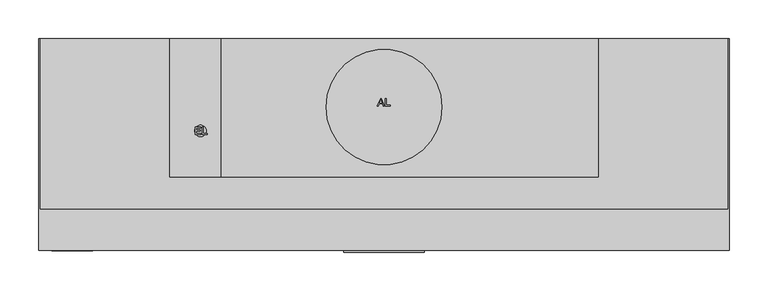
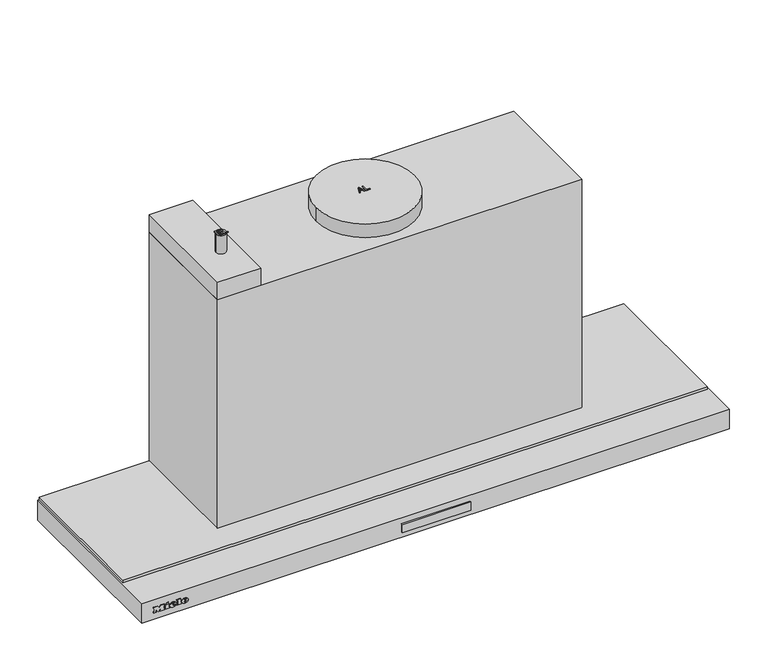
"""IFC4 building model written with IfcOpenShell, lengths in millimetres: proxy geometry, 12400950_D_DAS2922_EDST : 28S2922S_D_12400950_DAS2922_EDST."""

from ifc_helpers import new_model, si_unit, point, frame, frame_2d, origin, origin_with_axes, place, context, project, spatial, polyline, circle_curve, ellipse_curve, trimmed, segment, composite_curve, outline, extrude, faceted_brep, source, transform, mapped, element, save
from ifc_brep_helpers import plane_surface, cylinder_surface, revolved_surface, extruded_surface, advanced_brep


def specialty_equipment_2c4c37f5(model_context):
    return source(origin(), model_context, "Body", "SolidModel", [
        extrude(outline(polyline([(52.0, -275.0), (52.0, -277.3978707), (-52.0, -277.3978707), (-52.0, -275.0), (52.0, -275.0)])), frame((0.0, 0.0, -23.0389651), z_axis=(0.0, 0.0, 1.0), x_axis=(1.0, 0.0, 0.0)), (0.0, 0.0, 1.0), 13.3389155),
        advanced_brep(
        [(-383.4590019, -276.0, -18.7681017), (-383.4590019, -276.0, -17.8894017), (-377.6387019, -276.0, -17.8894017), (-387.7655019, -276.0, -17.8894017), (-385.3730019, -276.0, -20.8300017), (-377.7866019, -276.0, -18.7681017), (-380.4140019, -276.0, -18.7681017), (-382.4846019, -276.0, -19.7425017), (-383.4590019, -276.0, -16.7758017), (-383.4590019, -276.0, -15.8275017), (-381.9713019, -276.0, -15.8275017), (-381.9713019, -276.0, -16.7758017), (-383.4590019, -275.0, -18.7681017), (-382.4846019, -275.0, -19.7425017), (-380.4140019, -275.0, -18.7681017), (-377.7866019, -275.0, -18.7681017), (-385.3730019, -275.0, -20.8300017), (-387.7655019, -275.0, -17.8894017), (-377.6387019, -275.0, -17.8894017), (-383.4590019, -275.0, -17.8894017), (-383.4590019, -275.0, -16.7758017), (-381.9713019, -275.0, -16.7758017), (-381.9713019, -275.0, -15.8275017), (-383.4590019, -275.0, -15.8275017)],
        [
            (0, 1),
            (1, 2),
            (2, 3, ellipse_curve(frame((-382.7021019, -276.0, -17.8894017), z_axis=(0.0, -1.0, 0.0), x_axis=(-1.0, 0.0, 0.0)), 5.0634, 4.1847)),
            (3, 4, circle_curve(frame((-384.3985544, -276.0, -17.5936017), z_axis=(0.0, -1.0, 0.0), x_axis=(0.0, 0.0, -1.0)), 3.3799161)),
            (4, 5, circle_curve(frame((-382.8034638, -276.0, -15.2968017), z_axis=(0.0, -1.0, 0.0), x_axis=(0.0, 0.0, -1.0)), 6.1007236)),
            (5, 6),
            (6, 7, circle_curve(frame((-382.0593254, -276.0, -17.9590017), z_axis=(0.0, 1.0, 0.0), x_axis=(0.0, 0.0, -1.0)), 1.8335027)),
            (7, 0, circle_curve(frame((-382.4846019, -276.0, -18.7681017), z_axis=(0.0, 1.0, 0.0), x_axis=(0.0, 0.0, -1.0)), 0.9744)),
            (8, 9),
            (9, 10, circle_curve(frame((-382.7151519, -276.0, -15.8275017), z_axis=(0.0, 1.0, 0.0), x_axis=(0.0, 0.0, -1.0)), 0.74385)),
            (10, 11),
            (11, 8),
            (12, 13, circle_curve(frame((-382.4846019, -275.0, -18.7681017), z_axis=(0.0, -1.0, 0.0), x_axis=(0.0, 0.0, -1.0)), 0.9744)),
            (13, 14, circle_curve(frame((-382.0593254, -275.0, -17.9590017), z_axis=(0.0, -1.0, 0.0), x_axis=(0.0, 0.0, -1.0)), 1.8335027)),
            (14, 15),
            (15, 16, circle_curve(frame((-382.8034638, -275.0, -15.2968017), z_axis=(0.0, 1.0, 0.0), x_axis=(0.0, 0.0, -1.0)), 6.1007236)),
            (16, 17, circle_curve(frame((-384.3985544, -275.0, -17.5936017), z_axis=(0.0, 1.0, 0.0), x_axis=(0.0, 0.0, -1.0)), 3.3799161)),
            (17, 18, ellipse_curve(frame((-382.7021019, -275.0, -17.8894017), z_axis=(0.0, 1.0, 0.0), x_axis=(-1.0, 0.0, 0.0)), 5.0634, 4.1847)),
            (18, 19),
            (19, 12),
            (20, 21),
            (21, 22),
            (22, 23, circle_curve(frame((-382.7151519, -275.0, -15.8275017), z_axis=(0.0, -1.0, 0.0), x_axis=(0.0, 0.0, -1.0)), 0.74385)),
            (23, 20),
            (0, 12),
            (19, 1),
            (18, 2),
            (5, 15),
            (14, 6),
            (17, 3),
            (13, 7),
            (16, 4),
            (8, 20),
            (23, 9),
            (22, 10),
            (21, 11),
        ],
        [
            plane_surface(frame((-383.4590019, -276.0, -17.8894017), z_axis=(0.0, -1.0, 0.0), x_axis=(0.0, 0.0, 1.0))),
            plane_surface(frame((-383.4590019, -275.0, -17.8894017), z_axis=(0.0, 1.0, 0.0), x_axis=(0.0, 0.0, -1.0))),
            plane_surface(frame((-383.4590019, -276.0, -18.7681017), z_axis=(1.0, 0.0, 0.0), x_axis=(0.0, 1.0, 0.0))),
            plane_surface(frame((-383.4590019, -276.0, -17.8894017), z_axis=(0.0, 0.0, -1.0), x_axis=(0.0, 1.0, 0.0))),
            plane_surface(frame((-377.7866019, -276.0, -18.7681017), z_axis=(0.0, 0.0, 1.0), x_axis=(0.0, 1.0, 0.0))),
            extruded_surface(trimmed(ellipse_curve(frame((-382.7021019, -274.0, -17.8894017), z_axis=(0.0, -1.0, 0.0), x_axis=(-1.0, 0.0, 0.0)), 5.0634, 4.1847), [point((-377.6387019, -274.0, -17.8894017))], [point((-387.7655019, -274.0, -17.8894017))], True, "CARTESIAN"), (0.0, -1.0, 0.0), 1.0),
            revolved_surface(polyline([(-382.0593254, -275.0, -19.792504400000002), (-382.0593254, -276.0, -19.792504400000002)]), (-382.0593254, -275.0, -17.9590017), (0.0, 1.0, 0.0)),
            revolved_surface(polyline([(-382.4846019, -275.0, -19.7425017), (-382.4846019, -276.0, -19.7425017)]), (-382.4846019, -275.0, -18.7681017), (0.0, 1.0, 0.0)),
            cylinder_surface(frame((-384.3985544, -275.0, -17.5936017), z_axis=(0.0, -1.0, 0.0), x_axis=(0.0, 0.0, -1.0)), 3.3799161),
            cylinder_surface(frame((-382.8034638, -275.0, -15.2968017), z_axis=(0.0, -1.0, 0.0), x_axis=(0.0, 0.0, -1.0)), 6.1007236),
            plane_surface(frame((-383.4590019, -276.0, -16.7758017), z_axis=(1.0, 0.0, 0.0), x_axis=(0.0, 1.0, 0.0))),
            revolved_surface(polyline([(-382.7151519, -275.0, -16.571351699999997), (-382.7151519, -276.0, -16.571351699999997)]), (-382.7151519, -275.0, -15.8275017), (0.0, 1.0, 0.0)),
            plane_surface(frame((-381.9713019, -276.0, -15.8275017), z_axis=(-1.0, 0.0, 0.0), x_axis=(0.0, 1.0, 0.0))),
            plane_surface(frame((-381.9713019, -276.0, -16.7758017), z_axis=(0.0, 0.0, 1.0), x_axis=(0.0, 1.0, 0.0))),
        ],
        [
            (0, [[1, 2, 3, 4, 5, 6, 7, 8], [9, 10, 11, 12]]),
            (1, [[13, 14, 15, 16, 17, 18, 19, 20], [21, 22, 23, 24]]),
            (2, [[-1, 25, -20, 26]]),
            (3, [[-2, -26, -19, 27]]),
            (4, [[-6, 28, -15, 29]]),
            (5, [[-3, -27, -18, 30]]),
            (6, [[-7, -29, -14, 31]]),
            (7, [[-8, -31, -13, -25]]),
            (8, [[-4, -30, -17, 32]]),
            (9, [[-5, -32, -16, -28]]),
            (10, [[-9, 33, -24, 34]]),
            (11, [[-10, -34, -23, 35]]),
            (12, [[-11, -35, -22, 36]]),
            (13, [[-12, -36, -21, -33]]),
        ],
    ),
        advanced_brep(
        [(-401.6159019, -276.0, -18.7681017), (-401.6159019, -276.0, -17.8894017), (-395.7956019, -276.0, -17.8894017), (-405.9224019, -276.0, -17.8894017), (-403.5299019, -276.0, -20.8300017), (-395.9435019, -276.0, -18.7681017), (-398.5709019, -276.0, -18.7681017), (-400.6415019, -276.0, -19.7425017), (-401.6159019, -276.0, -16.7758017), (-401.6159019, -276.0, -15.8275017), (-400.1282019, -276.0, -15.8275017), (-400.1282019, -276.0, -16.7758017), (-401.6159019, -275.0, -18.7681017), (-400.6415019, -275.0, -19.7425017), (-398.5709019, -275.0, -18.7681017), (-395.9435019, -275.0, -18.7681017), (-403.5299019, -275.0, -20.8300017), (-405.9224019, -275.0, -17.8894017), (-395.7956019, -275.0, -17.8894017), (-401.6159019, -275.0, -17.8894017), (-401.6159019, -275.0, -16.7758017), (-400.1282019, -275.0, -16.7758017), (-400.1282019, -275.0, -15.8275017), (-401.6159019, -275.0, -15.8275017)],
        [
            (0, 1),
            (1, 2),
            (2, 3, ellipse_curve(frame((-400.8590019, -276.0, -17.8894017), z_axis=(0.0, -1.0, 0.0), x_axis=(-1.0, 0.0, 0.0)), 5.0634, 4.1847)),
            (3, 4, circle_curve(frame((-402.5554544, -276.0, -17.5936017), z_axis=(0.0, -1.0, 0.0), x_axis=(0.0, 0.0, -1.0)), 3.3799161)),
            (4, 5, circle_curve(frame((-400.9603638, -276.0, -15.2968017), z_axis=(0.0, -1.0, 0.0), x_axis=(0.0, 0.0, -1.0)), 6.1007236)),
            (5, 6),
            (6, 7, circle_curve(frame((-400.2162254, -276.0, -17.9590017), z_axis=(0.0, 1.0, 0.0), x_axis=(0.0, 0.0, -1.0)), 1.8335027)),
            (7, 0, circle_curve(frame((-400.6415019, -276.0, -18.7681017), z_axis=(0.0, 1.0, 0.0), x_axis=(0.0, 0.0, -1.0)), 0.9744)),
            (8, 9),
            (9, 10, circle_curve(frame((-400.8720519, -276.0, -15.8275017), z_axis=(0.0, 1.0, 0.0), x_axis=(0.0, 0.0, -1.0)), 0.74385)),
            (10, 11),
            (11, 8),
            (12, 13, circle_curve(frame((-400.6415019, -275.0, -18.7681017), z_axis=(0.0, -1.0, 0.0), x_axis=(0.0, 0.0, -1.0)), 0.9744)),
            (13, 14, circle_curve(frame((-400.2162254, -275.0, -17.9590017), z_axis=(0.0, -1.0, 0.0), x_axis=(0.0, 0.0, -1.0)), 1.8335027)),
            (14, 15),
            (15, 16, circle_curve(frame((-400.9603638, -275.0, -15.2968017), z_axis=(0.0, 1.0, 0.0), x_axis=(0.0, 0.0, -1.0)), 6.1007236)),
            (16, 17, circle_curve(frame((-402.5554544, -275.0, -17.5936017), z_axis=(0.0, 1.0, 0.0), x_axis=(0.0, 0.0, -1.0)), 3.3799161)),
            (17, 18, ellipse_curve(frame((-400.8590019, -275.0, -17.8894017), z_axis=(0.0, 1.0, 0.0), x_axis=(-1.0, 0.0, 0.0)), 5.0634, 4.1847)),
            (18, 19),
            (19, 12),
            (20, 21),
            (21, 22),
            (22, 23, circle_curve(frame((-400.8720519, -275.0, -15.8275017), z_axis=(0.0, -1.0, 0.0), x_axis=(0.0, 0.0, -1.0)), 0.74385)),
            (23, 20),
            (0, 12),
            (19, 1),
            (18, 2),
            (5, 15),
            (14, 6),
            (17, 3),
            (13, 7),
            (16, 4),
            (8, 20),
            (23, 9),
            (22, 10),
            (21, 11),
        ],
        [
            plane_surface(frame((-401.6159019, -276.0, -17.8894017), z_axis=(0.0, -1.0, 0.0), x_axis=(0.0, 0.0, 1.0))),
            plane_surface(frame((-401.6159019, -275.0, -17.8894017), z_axis=(0.0, 1.0, 0.0), x_axis=(0.0, 0.0, -1.0))),
            plane_surface(frame((-401.6159019, -276.0, -18.7681017), z_axis=(1.0, 0.0, 0.0), x_axis=(0.0, 1.0, 0.0))),
            plane_surface(frame((-401.6159019, -276.0, -17.8894017), z_axis=(0.0, 0.0, -1.0), x_axis=(0.0, 1.0, 0.0))),
            plane_surface(frame((-395.9435019, -276.0, -18.7681017), z_axis=(0.0, 0.0, 1.0), x_axis=(0.0, 1.0, 0.0))),
            extruded_surface(trimmed(ellipse_curve(frame((-400.8590019, -274.0, -17.8894017), z_axis=(0.0, -1.0, 0.0), x_axis=(-1.0, 0.0, 0.0)), 5.0634, 4.1847), [point((-395.7956019, -274.0, -17.8894017))], [point((-405.9224019, -274.0, -17.8894017))], True, "CARTESIAN"), (0.0, -1.0, 0.0), 1.0),
            revolved_surface(polyline([(-400.2162254, -275.0, -19.792504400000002), (-400.2162254, -276.0, -19.792504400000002)]), (-400.2162254, -275.0, -17.9590017), (0.0, 1.0, 0.0)),
            revolved_surface(polyline([(-400.6415019, -275.0, -19.7425017), (-400.6415019, -276.0, -19.7425017)]), (-400.6415019, -275.0, -18.7681017), (0.0, 1.0, 0.0)),
            cylinder_surface(frame((-402.5554544, -275.0, -17.5936017), z_axis=(0.0, -1.0, 0.0), x_axis=(0.0, 0.0, -1.0)), 3.3799161),
            cylinder_surface(frame((-400.9603638, -275.0, -15.2968017), z_axis=(0.0, -1.0, 0.0), x_axis=(0.0, 0.0, -1.0)), 6.1007236),
            plane_surface(frame((-401.6159019, -276.0, -16.7758017), z_axis=(1.0, 0.0, 0.0), x_axis=(0.0, 1.0, 0.0))),
            revolved_surface(polyline([(-400.8720519, -275.0, -16.571351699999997), (-400.8720519, -276.0, -16.571351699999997)]), (-400.8720519, -275.0, -15.8275017), (0.0, 1.0, 0.0)),
            plane_surface(frame((-400.1282019, -276.0, -15.8275017), z_axis=(-1.0, 0.0, 0.0), x_axis=(0.0, 1.0, 0.0))),
            plane_surface(frame((-400.1282019, -276.0, -16.7758017), z_axis=(0.0, 0.0, 1.0), x_axis=(0.0, 1.0, 0.0))),
        ],
        [
            (0, [[1, 2, 3, 4, 5, 6, 7, 8], [9, 10, 11, 12]]),
            (1, [[13, 14, 15, 16, 17, 18, 19, 20], [21, 22, 23, 24]]),
            (2, [[-1, 25, -20, 26]]),
            (3, [[-2, -26, -19, 27]]),
            (4, [[-6, 28, -15, 29]]),
            (5, [[-3, -27, -18, 30]]),
            (6, [[-7, -29, -14, 31]]),
            (7, [[-8, -31, -13, -25]]),
            (8, [[-4, -30, -17, 32]]),
            (9, [[-5, -32, -16, -28]]),
            (10, [[-9, 33, -24, 34]]),
            (11, [[-10, -34, -23, 35]]),
            (12, [[-11, -35, -22, 36]]),
            (13, [[-12, -36, -21, -33]]),
        ],
    ),
        extrude(outline(polyline([(-12.6433017, -411.1250019), (-14.0527017, -410.4638019), (-12.6781017, -407.5145019), (-11.2687017, -408.1670019), (-12.6433017, -411.1250019)])), frame((0.0, -276.0, 0.0), z_axis=(0.0, 1.0, 0.0), x_axis=(0.0, 0.0, 1.0)), (0.0, 0.0, 1.0), 1.0),
        extrude(outline(polyline([(-14.2441017, -413.2739019), (-15.8014017, -413.2739019), (-15.8014017, -412.2386019), (-19.3684017, -412.2386019), (-19.3684017, -413.2739019), (-20.8300017, -413.2739019), (-20.8300017, -406.4096019), (-19.3684017, -406.4096019), (-19.3684017, -407.4188019), (-14.2441017, -407.4188019), (-14.2441017, -413.2739019)])), frame((0.0, -276.0, 0.0), z_axis=(0.0, 1.0, 0.0), x_axis=(0.0, 0.0, 1.0)), (0.0, 0.0, 1.0), 1.0),
        extrude(outline(polyline([(-13.5481017, -395.3084019), (-13.5481017, -394.2644019), (-19.3684017, -394.2644019), (-19.3684017, -395.3084019), (-20.8300017, -395.3084019), (-20.8300017, -388.2527019), (-19.3684017, -388.2527019), (-19.3684017, -389.3228019), (-12.1300017, -389.3228019), (-12.1300017, -395.3084019), (-13.5481017, -395.3084019)])), frame((0.0, -276.0, 0.0), z_axis=(0.0, 1.0, 0.0), x_axis=(0.0, 0.0, 1.0)), (0.0, 0.0, 1.0), 1.0),
        extrude(outline(polyline([(-13.5481017, -430.6130019), (-13.5481017, -429.5603019), (-19.3684017, -429.5603019), (-19.3684017, -430.6130019), (-20.8300017, -430.6130019), (-20.8300017, -426.7850019), (-19.3684017, -426.7850019), (-19.3684017, -427.8290019), (-15.6719769, -427.8290019), (-20.8300017, -423.9401019), (-15.5772794, -420.0338019), (-19.3684017, -420.0338019), (-19.3684017, -421.1039019), (-20.8300017, -421.1039019), (-20.8300017, -414.1613019), (-19.3684017, -414.1613019), (-19.3684017, -415.2662019), (-13.5481017, -415.2662019), (-13.5481017, -414.1613019), (-12.1300017, -414.1613019), (-12.1300017, -419.4596019), (-15.3925017, -422.0000019), (-12.1300017, -424.5491019), (-12.1300017, -430.6130019), (-13.5481017, -430.6130019)])), frame((0.0, -276.0, 0.0), z_axis=(0.0, 1.0, 0.0), x_axis=(0.0, 0.0, 1.0)), (0.0, 0.0, 1.0), 1.0),
        extrude(outline(polyline([(120.0, -19.25), (120.0, -31.75), (-120.0, -31.75), (-120.0, -19.25), (120.0, -19.25)])), frame((0.0, 0.0, -23.0), z_axis=(0.0, 0.0, 1.0), x_axis=(1.0, 0.0, 0.0)), (0.0, 0.0, 1.0), 1.785426),
        extrude(outline(polyline([(446.0, 0.0), (446.0, -221.0), (-446.0, -221.0), (-446.0, 0.0), (446.0, 0.0)])), origin_with_axes(), (0.0, 0.0, 1.0), 4.0),
        extrude(outline(polyline([(-8.547125, -87.975609), (-4.5372113, -77.929978), (-3.4679009, -77.929978), (0.5420128, -87.975609), (-0.7848149, -87.975609), (-1.9350593, -84.8363493), (-6.0725055, -84.8363493), (-7.2202973, -87.975609), (-8.547125, -87.975609)]), holes=[polyline([(-5.6114267, -83.5806455), (-2.3936855, -83.5806455), (-3.2986752, -81.110931), (-4.0025561, -79.1856819), (-4.6279555, -80.8951069), (-5.6114267, -83.5806455)])]), frame((0.0, 0.0, 395.0), z_axis=(0.0, 0.0, 1.0), x_axis=(1.0, 0.0, 0.0)), (0.0, 0.0, 1.0), 1.0),
        extrude(outline(polyline([(1.8835558, -87.975609), (1.8835558, -77.929978), (3.1392597, -77.929978), (3.1392597, -86.7199052), (8.1620752, -86.7199052), (8.1620752, -87.975609), (1.8835558, -87.975609)])), frame((0.0, 0.0, 395.0), z_axis=(0.0, 0.0, 1.0), x_axis=(1.0, 0.0, 0.0)), (0.0, 0.0, 1.0), 1.0),
        faceted_brep([(448.0, 0.0, -32.0), (448.0, -275.0, -32.0), (-448.0, -275.0, -32.0), (-448.0, 0.0, -32.0), (-413.0, 0.0, -32.0), (-413.0, -242.0, -32.0), (413.0, -242.0, -32.0), (413.0, 0.0, -32.0), (448.0, 0.0, 0.0), (-448.0, 0.0, 0.0), (-448.0, -275.0, 0.0), (448.0, -275.0, 0.0), (413.0, 0.0, -24.0), (-413.0, 0.0, -24.0), (413.0, -242.0, -25.0), (-413.0, -242.0, -25.0), (-413.0, -52.0, -25.0), (413.0, -52.0, -25.0), (-413.0, -52.0, -24.0), (413.0, -52.0, -24.0), (126.0, -12.0, -24.0), (-126.0, -12.0, -24.0), (-126.0, -39.0, -24.0), (126.0, -39.0, -24.0), (126.0, -12.0, -21.214574), (126.0, -39.0, -21.214574), (-126.0, -39.0, -21.214574), (-126.0, -12.0, -21.214574)], [[[0, 1, 2, 3, 4, 5, 6, 7]], [[8, 9, 10, 11]], [[9, 8, 0, 7, 12, 13, 4, 3]], [[3, 2, 10, 9]], [[2, 1, 11, 10]], [[1, 0, 8, 11]], [[14, 15, 16, 17]], [[15, 5, 4, 13, 18, 16]], [[15, 14, 6, 5]], [[6, 14, 17, 19, 12, 7]], [[12, 19, 18, 13], [20, 21, 22, 23]], [[18, 19, 17, 16]], [[24, 25, 26, 27]], [[24, 27, 21, 20]], [[27, 26, 22, 21]], [[26, 25, 23, 22]], [[25, 24, 20, 23]]]),
        extrude(outline(polyline([(-278.0, -180.0), (-278.0, 0.0), (-212.0, 0.0), (-212.0, -180.0), (-278.0, -180.0)])), frame((0.0, 0.0, 373.0), z_axis=(0.0, 0.0, 1.0), x_axis=(1.0, 0.0, 0.0)), (0.0, 0.0, 1.0), 28.0),
        extrude(outline(composite_curve([segment(trimmed(circle_curve(frame_2d((0.0, -89.0)), 75.0), [point((-75.0, -89.0))], [point((75.0, -89.0))], False, "CARTESIAN"), True, "CONTINUOUS"), segment(trimmed(circle_curve(frame_2d((0.0, -89.0)), 75.0), [point((75.0, -89.0))], [point((-75.0, -89.0))], False, "CARTESIAN"), True, "CONTINUOUS")], self_intersect=False)), frame((0.0, 0.0, 373.0), z_axis=(0.0, 0.0, 1.0), x_axis=(1.0, 0.0, 0.0)), (0.0, 0.0, 1.0), 22.0),
        extrude(outline(polyline([(278.0, -180.0), (-278.0, -180.0), (-278.0, 0.0), (278.0, 0.0), (278.0, -180.0)])), frame((0.0, 0.0, 4.0), z_axis=(0.0, 0.0, 1.0), x_axis=(1.0, 0.0, 0.0)), (0.0, 0.0, 1.0), 369.0),
        extrude(outline(polyline([(-244.9012591, -124.9184735), (-244.9012591, -114.8728425), (-237.6809618, -114.8728425), (-237.6809618, -116.1285464), (-243.6455552, -116.1285464), (-243.6455552, -119.1108431), (-237.9948878, -119.1108431), (-237.9948878, -120.366547), (-243.6455552, -120.366547), (-243.6455552, -123.6627696), (-237.5239988, -123.6627696), (-237.5239988, -124.9184735), (-244.9012591, -124.9184735)])), frame((0.0, 0.0, 431.0), z_axis=(0.0, 0.0, 1.0), x_axis=(1.0, 0.0, 0.0)), (0.0, 0.0, 1.0), 1.0),
        extrude(outline(polyline([(-235.640443, -124.9184735), (-235.640443, -114.8728425), (-234.3847391, -114.8728425), (-234.3847391, -123.6627696), (-229.3619236, -123.6627696), (-229.3619236, -124.9184735), (-235.640443, -124.9184735)])), frame((0.0, 0.0, 431.0), z_axis=(0.0, 0.0, 1.0), x_axis=(1.0, 0.0, 0.0)), (0.0, 0.0, 1.0), 1.0),
        extrude(outline(composite_curve([segment(trimmed(circle_curve(frame_2d((-238.0, -120.0)), 7.5), [point((-230.5, -120.0))], [point((-245.5, -120.0))], False, "CARTESIAN"), True, "CONTINUOUS"), segment(trimmed(circle_curve(frame_2d((-238.0, -120.0)), 7.5), [point((-245.5, -120.0))], [point((-230.5, -120.0))], False, "CARTESIAN"), True, "CONTINUOUS")], self_intersect=False)), frame((0.0, 0.0, 401.0), z_axis=(0.0, 0.0, 1.0), x_axis=(1.0, 0.0, 0.0)), (0.0, 0.0, 1.0), 30.0),
        extrude(outline(polyline([(331.0813184, -268.0), (331.0813184, -246.0), (399.0, -246.0), (399.0, -268.0), (331.0813184, -268.0)])), frame((0.0, 0.0, -33.3019181), z_axis=(0.0, 0.0, 1.0), x_axis=(1.0, 0.0, 0.0)), (0.0, 0.0, 1.0), 1.3019181),
        extrude(outline(polyline([(-399.0, -268.0), (-399.0, -246.0), (-331.0, -246.0), (-331.0, -268.0), (-399.0, -268.0)])), frame((0.0, 0.0, -33.3019181), z_axis=(0.0, 0.0, 1.0), x_axis=(1.0, 0.0, 0.0)), (0.0, 0.0, 1.0), 1.3019181),
    ])


if __name__ == "__main__":
    model = new_model("IFC4")
    model_context = context("Model", 3, world=origin())
    ifc_project = project(units=[si_unit("LENGTHUNIT", "METRE", prefix="MILLI")], contexts=[model_context])
    site = spatial("IfcSite", under=ifc_project)
    building = spatial("IfcBuilding", under=site)
    placement = place(None, origin())
    specialty_equipment_shape = specialty_equipment_2c4c37f5(model_context)
    element("IfcBuildingElementProxy", 1, Name="12400950_D_DAS2922_EDST : 28S2922S_D_12400950_DAS2922_EDST", ObjectType="12400950_D_DAS2922_EDST : 28S2922S_D_12400950_DAS2922_EDST", at=placement, inside=building, context=model_context, shape_type="MappedRepresentation", body=[
        mapped(specialty_equipment_shape, transform((0.0, 0.0, 0.0), x_axis=(1.0, 0.0, 0.0), y_axis=(0.0, 1.0, 0.0), z_axis=(0.0, 0.0, 1.0))),
    ])
    save(model, "model.ifc")
